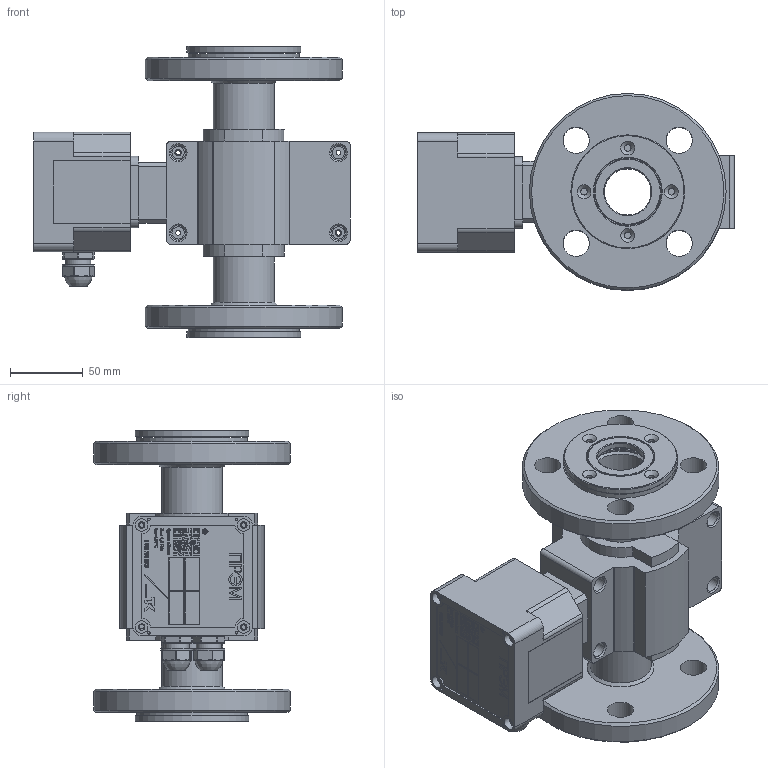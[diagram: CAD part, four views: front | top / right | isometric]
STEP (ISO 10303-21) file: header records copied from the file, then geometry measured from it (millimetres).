
FILE_DESCRIPTION(/* description */ (''),/* implementation_level */ '2;1');
FILE_NAME(/* name */ 'C:\ТЭК\Реклама\ПРЭМ-32F.stp',/* time_stamp */ '2019-12-09T12:09:00+03:00',/* author */ ('Kishalov.m'),/* organization */ (''),/* preprocessor_version */ 'ST-DEVELOPER v18',/* originating_system */ 'Autodesk Inventor 2020',/* authorisation */ '');
FILE_SCHEMA (('AUTOMOTIVE_DESIGN { 1 0 10303 214 3 1 1 }'));
Products named in the file (2): 32; 32в2
Assembly tree (1 placements, depth 2):
  32
    32в2
Bounding box: 217 x 135 x 200 mm (x, y, z)
Volume: 835799.1 mm3; surface area: 314755 mm2
Topology: 5 solids, 5 shells, 2490 faces, 6613 edges, 4267 vertices
Faces by surface type: plane 1446, cylinder 471, bspline 449, cone 60, sphere 60, torus 4
Full cylindrical faces by diameter (mm): 0.431 x1, 0.546 x1, 1.159 x2, 1.5 x2, 1.7 x4, 1.8 x8, 2.5 x8, 3.242 x12, 4.2 x1, 4.5 x16, 4.7 x4, 4.9 x4, 5.472 x1, 5.5 x3, 7.5 x4, 8.5 x12, 10.3 x8, 11 x8, 12 x2, 13 x2, 17 x6, 18 x8, 19.094 x2, 20.5 x1, 32 x2, 38 x1, 42 x3, 42.5 x4, 42.6 x2, 44 x2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
Entity records: 86922 total; most frequent: CARTESIAN_POINT 24817, ORIENTED_EDGE 13046, DIRECTION 10958, EDGE_CURVE 6523, LINE 4392, VECTOR 4392, VERTEX_POINT 4267, AXIS2_PLACEMENT_3D 3283
